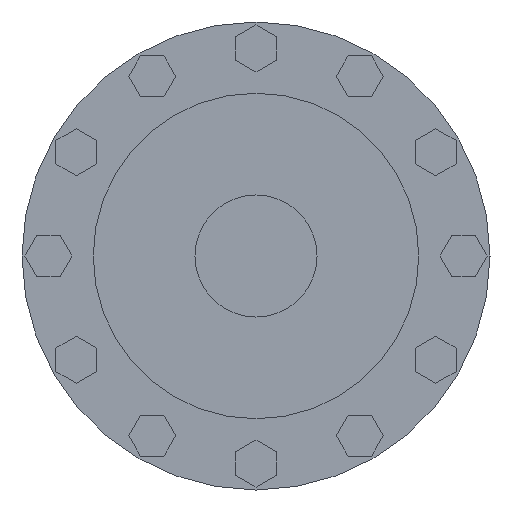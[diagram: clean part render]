
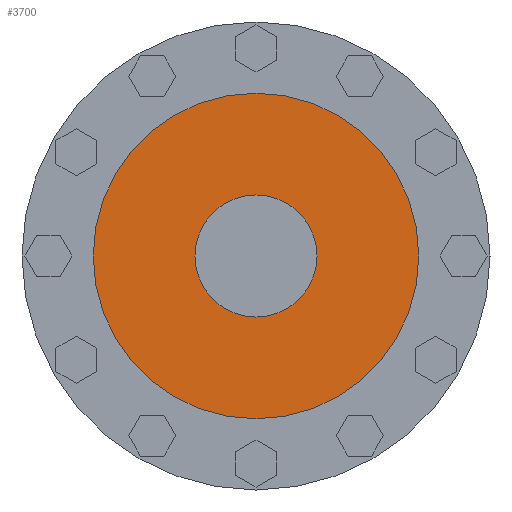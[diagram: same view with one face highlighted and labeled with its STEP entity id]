
A CAD part, left-side view. The second image highlights one B-rep face of the part: STEP entity #3700.
In plain terms, the highlighted planar face has unit normal (-1, 0, 0).
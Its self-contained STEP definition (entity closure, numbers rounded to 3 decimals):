
#6=CARTESIAN_POINT('',(-146.,0.,0.));
#7=DIRECTION('',(1.,0.,0.));
#8=DIRECTION('',(0.,1.,0.));
#9=AXIS2_PLACEMENT_3D('',#6,#7,#8);
#773=CARTESIAN_POINT('',(-146.,0.,0.));
#774=DIRECTION('',(-1.,0.,0.));
#775=DIRECTION('',(0.,1.,0.));
#776=AXIS2_PLACEMENT_3D('',#773,#774,#775);
#778=CARTESIAN_POINT('',(-146.,0.,0.));
#779=DIRECTION('',(1.,0.,0.));
#780=DIRECTION('',(0.,1.,0.));
#781=AXIS2_PLACEMENT_3D('',#778,#779,#780);
#792=CARTESIAN_POINT('',(-146.,0.,0.));
#793=DIRECTION('',(-1.,0.,0.));
#794=DIRECTION('',(0.,1.,0.));
#795=AXIS2_PLACEMENT_3D('',#792,#793,#794);
#2294=CARTESIAN_POINT('',(-146.,40.,0.));
#2296=VERTEX_POINT('',#2294);
#2302=CARTESIAN_POINT('',(-146.,-40.,0.));
#2304=VERTEX_POINT('',#2302);
#2325=CARTESIAN_POINT('',(-146.,15.,0.));
#2326=VERTEX_POINT('',#2325);
#2327=CARTESIAN_POINT('',(-146.,-15.,0.));
#2328=VERTEX_POINT('',#2327);
#3686=CARTESIAN_POINT('',(-146.,0.,0.));
#3687=DIRECTION('',(1.,0.,0.));
#3688=DIRECTION('',(0.,-1.,0.));
#3689=AXIS2_PLACEMENT_3D('',#3686,#3687,#3688);
#3690=PLANE('',#3689);
#3691=ORIENTED_EDGE('',*,*,#3679,.F.);
#3692=ORIENTED_EDGE('',*,*,#3668,.T.);
#3693=EDGE_LOOP('',(#3691,#3692));
#3694=FACE_OUTER_BOUND('',#3693,.F.);
#3695=ORIENTED_EDGE('',*,*,#3034,.F.);
#3697=ORIENTED_EDGE('',*,*,#3696,.T.);
#3698=EDGE_LOOP('',(#3695,#3697));
#3699=FACE_BOUND('',#3698,.F.);
#3700=ADVANCED_FACE('',(#3694,#3699),#3690,.F.);
#10=CIRCLE('',#9,15.);
#777=CIRCLE('',#776,40.);
#782=CIRCLE('',#781,40.);
#796=CIRCLE('',#795,15.);
#3034=EDGE_CURVE('',#2326,#2328,#10,.T.);
#3668=EDGE_CURVE('',#2296,#2304,#782,.T.);
#3679=EDGE_CURVE('',#2296,#2304,#777,.T.);
#3696=EDGE_CURVE('',#2326,#2328,#796,.T.);
